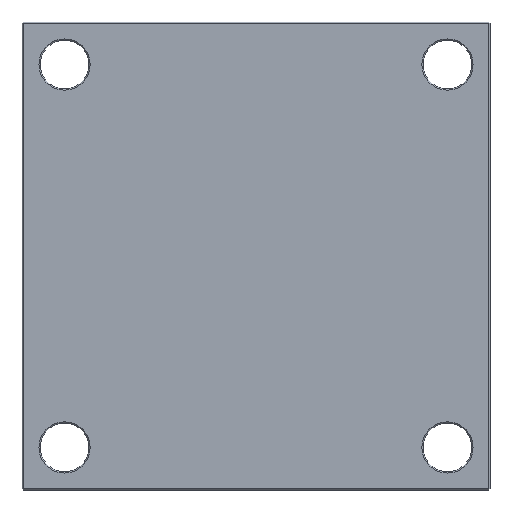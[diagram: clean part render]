
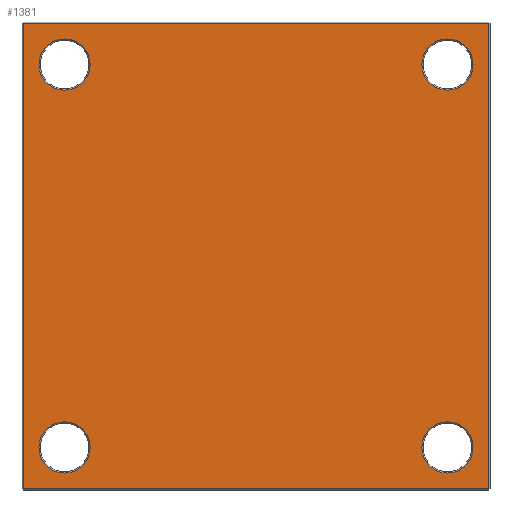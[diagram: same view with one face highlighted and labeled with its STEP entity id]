
A CAD part, front view. The second image highlights one B-rep face of the part: STEP entity #1381.
In plain terms, the highlighted planar face has unit normal (0, -1, 0).
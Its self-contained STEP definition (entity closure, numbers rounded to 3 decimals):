
#24 = ORIENTED_EDGE ( 'NONE', *, *, #466, .T. ) ;
#39 = VERTEX_POINT ( 'NONE', #1551 ) ;
#46 = ORIENTED_EDGE ( 'NONE', *, *, #202, .T. ) ;
#49 = CIRCLE ( 'NONE', #1563, 21.65 ) ;
#75 = VERTEX_POINT ( 'NONE', #1735 ) ;
#94 = CARTESIAN_POINT ( 'NONE',  ( 0., 0., -197. ) ) ;
#132 = LINE ( 'NONE', #1217, #1860 ) ;
#184 = DIRECTION ( 'NONE',  ( 1., 0., 0. ) ) ;
#191 = CARTESIAN_POINT ( 'NONE',  ( 162., 0., -162. ) ) ;
#198 = EDGE_CURVE ( 'NONE', #1249, #247, #263, .T. ) ;
#199 = LINE ( 'NONE', #1522, #1418 ) ;
#201 = EDGE_CURVE ( 'NONE', #805, #39, #1096, .T. ) ;
#202 = EDGE_CURVE ( 'NONE', #2047, #1077, #1478, .T. ) ;
#208 = EDGE_CURVE ( 'NONE', #2109, #2080, #1054, .T. ) ;
#214 = EDGE_CURVE ( 'NONE', #2120, #75, #199, .T. ) ;
#223 = EDGE_CURVE ( 'NONE', #75, #2171, #132, .T. ) ;
#224 = EDGE_CURVE ( 'NONE', #2171, #356, #648, .T. ) ;
#226 = EDGE_CURVE ( 'NONE', #356, #2120, #1370, .T. ) ;
#247 = VERTEX_POINT ( 'NONE', #290 ) ;
#263 = CIRCLE ( 'NONE', #624, 21.65 ) ;
#266 = FACE_BOUND ( 'NONE', #861, .T. ) ;
#288 = EDGE_LOOP ( 'NONE', ( #1892, #46 ) ) ;
#290 = CARTESIAN_POINT ( 'NONE',  ( -162., 0., -183.65 ) ) ;
#326 = EDGE_LOOP ( 'NONE', ( #2125, #1432, #558, #855 ) ) ;
#335 = DIRECTION ( 'NONE',  ( 0., 1., 0. ) ) ;
#356 = VERTEX_POINT ( 'NONE', #1239 ) ;
#389 = CIRCLE ( 'NONE', #1661, 21.65 ) ;
#466 = EDGE_CURVE ( 'NONE', #2080, #2109, #49, .T. ) ;
#495 = DIRECTION ( 'NONE',  ( 0., 0., 1. ) ) ;
#499 = EDGE_CURVE ( 'NONE', #1077, #2047, #852, .T. ) ;
#517 = EDGE_CURVE ( 'NONE', #39, #805, #389, .T. ) ;
#544 = EDGE_CURVE ( 'NONE', #247, #1249, #1548, .T. ) ;
#549 = VECTOR ( 'NONE', #184, 1000. ) ;
#558 = ORIENTED_EDGE ( 'NONE', *, *, #224, .T. ) ;
#565 = ORIENTED_EDGE ( 'NONE', *, *, #517, .T. ) ;
#585 = DIRECTION ( 'NONE',  ( 0., 0., 1. ) ) ;
#589 = ORIENTED_EDGE ( 'NONE', *, *, #201, .T. ) ;
#620 = DIRECTION ( 'NONE',  ( 0., 0., 1. ) ) ;
#621 = CARTESIAN_POINT ( 'NONE',  ( 162., 0., 183.65 ) ) ;
#624 = AXIS2_PLACEMENT_3D ( 'NONE', #1741, #1756, #495 ) ;
#628 = DIRECTION ( 'NONE',  ( 0., 1., 0. ) ) ;
#637 = CARTESIAN_POINT ( 'NONE',  ( -162., 0., -162. ) ) ;
#640 = ORIENTED_EDGE ( 'NONE', *, *, #198, .T. ) ;
#648 = LINE ( 'NONE', #1789, #1012 ) ;
#805 = VERTEX_POINT ( 'NONE', #1943 ) ;
#825 = DIRECTION ( 'NONE',  ( 0., 0., 1. ) ) ;
#849 = CARTESIAN_POINT ( 'NONE',  ( -162., 0., 162. ) ) ;
#852 = CIRCLE ( 'NONE', #1559, 21.65 ) ;
#854 = DIRECTION ( 'NONE',  ( 0., 1., 0. ) ) ;
#855 = ORIENTED_EDGE ( 'NONE', *, *, #226, .T. ) ;
#859 = DIRECTION ( 'NONE',  ( 0., 0., 1. ) ) ;
#861 = EDGE_LOOP ( 'NONE', ( #999, #640 ) ) ;
#890 = DIRECTION ( 'NONE',  ( 0., 0., 1. ) ) ;
#909 = CARTESIAN_POINT ( 'NONE',  ( -197., 0., 197. ) ) ;
#969 = EDGE_LOOP ( 'NONE', ( #565, #589 ) ) ;
#999 = ORIENTED_EDGE ( 'NONE', *, *, #544, .T. ) ;
#1003 = CARTESIAN_POINT ( 'NONE',  ( 162., 0., 162. ) ) ;
#1008 = CARTESIAN_POINT ( 'NONE',  ( -162., 0., 162. ) ) ;
#1012 = VECTOR ( 'NONE', #1855, 1000. ) ;
#1028 = AXIS2_PLACEMENT_3D ( 'NONE', #2180, #1506, #1488 ) ;
#1036 = CARTESIAN_POINT ( 'NONE',  ( 197., 0., -197. ) ) ;
#1040 = DIRECTION ( 'NONE',  ( 0., 1., 0. ) ) ;
#1054 = CIRCLE ( 'NONE', #2070, 21.65 ) ;
#1077 = VERTEX_POINT ( 'NONE', #1481 ) ;
#1096 = CIRCLE ( 'NONE', #1949, 21.65 ) ;
#1112 = CARTESIAN_POINT ( 'NONE',  ( 0., 0., 0. ) ) ;
#1217 = CARTESIAN_POINT ( 'NONE',  ( 0., 0., 197. ) ) ;
#1239 = CARTESIAN_POINT ( 'NONE',  ( -197., 0., -197. ) ) ;
#1243 = PLANE ( 'NONE',  #1545 ) ;
#1249 = VERTEX_POINT ( 'NONE', #1533 ) ;
#1250 = DIRECTION ( 'NONE',  ( 0., 1., 0. ) ) ;
#1253 = CARTESIAN_POINT ( 'NONE',  ( -162., 0., 140.35 ) ) ;
#1337 = DIRECTION ( 'NONE',  ( 0., 0., 1. ) ) ;
#1370 = LINE ( 'NONE', #94, #549 ) ;
#1381 = ADVANCED_FACE ( 'NONE', ( #266, #1599, #2071, #2016, #1482 ), #1243, .F. ) ;
#1418 = VECTOR ( 'NONE', #825, 1000. ) ;
#1432 = ORIENTED_EDGE ( 'NONE', *, *, #223, .T. ) ;
#1478 = CIRCLE ( 'NONE', #1028, 21.65 ) ;
#1481 = CARTESIAN_POINT ( 'NONE',  ( 162., 0., 140.35 ) ) ;
#1482 = FACE_OUTER_BOUND ( 'NONE', #326, .T. ) ;
#1488 = DIRECTION ( 'NONE',  ( 0., 0., 1. ) ) ;
#1506 = DIRECTION ( 'NONE',  ( 0., 1., 0. ) ) ;
#1522 = CARTESIAN_POINT ( 'NONE',  ( 197., 0., 0. ) ) ;
#1533 = CARTESIAN_POINT ( 'NONE',  ( -162., 0., -140.35 ) ) ;
#1545 = AXIS2_PLACEMENT_3D ( 'NONE', #1112, #1250, #1337 ) ;
#1548 = CIRCLE ( 'NONE', #1657, 21.65 ) ;
#1551 = CARTESIAN_POINT ( 'NONE',  ( 162., 0., -183.65 ) ) ;
#1559 = AXIS2_PLACEMENT_3D ( 'NONE', #1003, #1782, #1760 ) ;
#1563 = AXIS2_PLACEMENT_3D ( 'NONE', #1008, #1040, #890 ) ;
#1599 = FACE_BOUND ( 'NONE', #969, .T. ) ;
#1657 = AXIS2_PLACEMENT_3D ( 'NONE', #637, #628, #620 ) ;
#1661 = AXIS2_PLACEMENT_3D ( 'NONE', #191, #335, #585 ) ;
#1735 = CARTESIAN_POINT ( 'NONE',  ( 197., 0., 197. ) ) ;
#1741 = CARTESIAN_POINT ( 'NONE',  ( -162., 0., -162. ) ) ;
#1756 = DIRECTION ( 'NONE',  ( 0., 1., 0. ) ) ;
#1760 = DIRECTION ( 'NONE',  ( 0., 0., 1. ) ) ;
#1782 = DIRECTION ( 'NONE',  ( 0., 1., 0. ) ) ;
#1789 = CARTESIAN_POINT ( 'NONE',  ( -197., 0., 0. ) ) ;
#1807 = DIRECTION ( 'NONE',  ( -1., 0., 0. ) ) ;
#1855 = DIRECTION ( 'NONE',  ( 0., 0., -1. ) ) ;
#1860 = VECTOR ( 'NONE', #1807, 1000. ) ;
#1892 = ORIENTED_EDGE ( 'NONE', *, *, #499, .T. ) ;
#1901 = EDGE_LOOP ( 'NONE', ( #24, #2149 ) ) ;
#1929 = CARTESIAN_POINT ( 'NONE',  ( 162., 0., -162. ) ) ;
#1943 = CARTESIAN_POINT ( 'NONE',  ( 162., 0., -140.35 ) ) ;
#1949 = AXIS2_PLACEMENT_3D ( 'NONE', #1929, #2128, #2010 ) ;
#2010 = DIRECTION ( 'NONE',  ( 0., 0., 1. ) ) ;
#2016 = FACE_BOUND ( 'NONE', #1901, .T. ) ;
#2047 = VERTEX_POINT ( 'NONE', #621 ) ;
#2070 = AXIS2_PLACEMENT_3D ( 'NONE', #849, #854, #859 ) ;
#2071 = FACE_BOUND ( 'NONE', #288, .T. ) ;
#2080 = VERTEX_POINT ( 'NONE', #1253 ) ;
#2095 = CARTESIAN_POINT ( 'NONE',  ( -162., 0., 183.65 ) ) ;
#2109 = VERTEX_POINT ( 'NONE', #2095 ) ;
#2120 = VERTEX_POINT ( 'NONE', #1036 ) ;
#2125 = ORIENTED_EDGE ( 'NONE', *, *, #214, .T. ) ;
#2128 = DIRECTION ( 'NONE',  ( 0., 1., 0. ) ) ;
#2149 = ORIENTED_EDGE ( 'NONE', *, *, #208, .T. ) ;
#2171 = VERTEX_POINT ( 'NONE', #909 ) ;
#2180 = CARTESIAN_POINT ( 'NONE',  ( 162., 0., 162. ) ) ;
